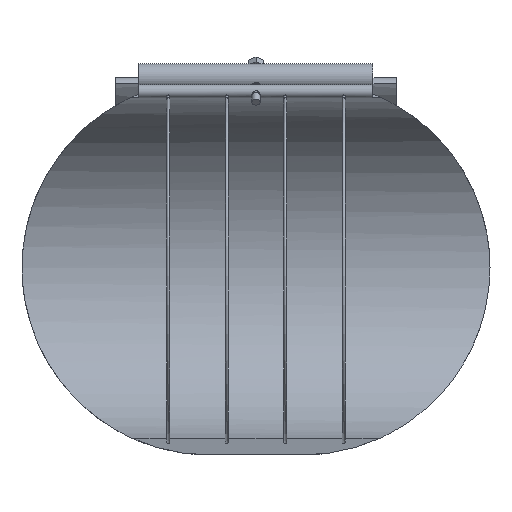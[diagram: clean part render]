
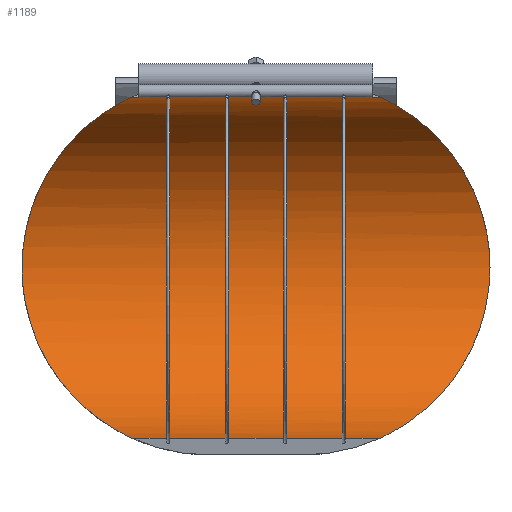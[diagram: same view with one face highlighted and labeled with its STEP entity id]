
A CAD part, front view. The second image highlights one B-rep face of the part: STEP entity #1189.
In plain terms, the highlighted cylindrical face has radius 125 mm (diameter 250 mm), a partial arc.
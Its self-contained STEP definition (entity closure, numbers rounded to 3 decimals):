
#125=FACE_OUTER_BOUND('',#203,.T.);
#203=EDGE_LOOP('',(#1060,#1061,#1062,#1063,#1064,#1065,#1066,#1067,#1068,
#1069));
#254=B_SPLINE_CURVE_WITH_KNOTS('',3,(#2686,#2687,#2688,#2689,#2690,#2691,
#2692,#2693,#2694,#2695,#2696,#2697,#2698,#2699,#2700,#2701,#2702,#2703,
#2704,#2705),.UNSPECIFIED.,.F.,.F.,(4,2,2,2,2,2,2,2,2,4),(45.024,
45.49,46.888,48.286,51.081,53.877,
56.418,58.959,61.501,64.042),
 .UNSPECIFIED.);
#255=B_SPLINE_CURVE_WITH_KNOTS('',3,(#2706,#2707,#2708,#2709,#2710,#2711,
#2712,#2713,#2714,#2715,#2716,#2717,#2718,#2719,#2720,#2721,#2722,#2723,
#2724,#2725),.UNSPECIFIED.,.F.,.F.,(4,2,2,2,2,2,2,2,2,4),(64.042,
66.583,69.124,71.665,74.207,77.002,
79.798,81.196,82.593,83.06),
 .UNSPECIFIED.);
#260=B_SPLINE_CURVE_WITH_KNOTS('',3,(#2837,#2838,#2839,#2840,#2841,#2842,
#2843,#2844,#2845,#2846,#2847,#2848,#2849,#2850,#2851,#2852,#2853,#2854,
#2855,#2856),.UNSPECIFIED.,.F.,.F.,(4,2,2,2,2,2,2,2,2,4),(2.329,
2.796,4.193,5.591,8.387,11.182,
13.724,16.265,18.806,21.347),
 .UNSPECIFIED.);
#261=B_SPLINE_CURVE_WITH_KNOTS('',3,(#2858,#2859,#2860,#2861,#2862,#2863,
#2864,#2865,#2866,#2867,#2868,#2869,#2870,#2871,#2872,#2873,#2874,#2875,
#2876,#2877),.UNSPECIFIED.,.F.,.F.,(4,2,2,2,2,2,2,2,2,4),(21.347,
23.888,26.43,28.971,31.512,34.308,
37.103,38.501,39.899,40.365),
 .UNSPECIFIED.);
#338=LINE('',#1987,#399);
#339=LINE('',#1990,#400);
#340=LINE('',#1993,#401);
#341=LINE('',#1995,#402);
#342=LINE('',#1996,#403);
#386=LINE('',#2919,#447);
#399=VECTOR('',#1402,10.);
#400=VECTOR('',#1405,10.);
#401=VECTOR('',#1408,10.);
#402=VECTOR('',#1411,10.);
#403=VECTOR('',#1412,10.);
#447=VECTOR('',#1648,10.);
#477=VERTEX_POINT('',#1975);
#479=VERTEX_POINT('',#1980);
#481=VERTEX_POINT('',#1984);
#482=VERTEX_POINT('',#1986);
#483=VERTEX_POINT('',#1989);
#484=VERTEX_POINT('',#1992);
#552=VERTEX_POINT('',#2683);
#553=VERTEX_POINT('',#2685);
#558=VERTEX_POINT('',#2836);
#559=VERTEX_POINT('',#2857);
#602=EDGE_CURVE('',#482,#481,#338,.T.);
#604=EDGE_CURVE('',#483,#482,#339,.T.);
#606=EDGE_CURVE('',#484,#483,#340,.T.);
#608=EDGE_CURVE('',#477,#484,#341,.T.);
#609=EDGE_CURVE('',#479,#477,#342,.T.);
#725=EDGE_CURVE('',#552,#553,#254,.T.);
#726=EDGE_CURVE('',#553,#481,#255,.T.);
#731=EDGE_CURVE('',#479,#558,#260,.T.);
#732=EDGE_CURVE('',#558,#559,#261,.T.);
#736=EDGE_CURVE('',#552,#559,#386,.T.);
#1060=ORIENTED_EDGE('',*,*,#731,.F.);
#1061=ORIENTED_EDGE('',*,*,#609,.T.);
#1062=ORIENTED_EDGE('',*,*,#608,.T.);
#1063=ORIENTED_EDGE('',*,*,#606,.T.);
#1064=ORIENTED_EDGE('',*,*,#604,.T.);
#1065=ORIENTED_EDGE('',*,*,#602,.T.);
#1066=ORIENTED_EDGE('',*,*,#726,.F.);
#1067=ORIENTED_EDGE('',*,*,#725,.F.);
#1068=ORIENTED_EDGE('',*,*,#736,.T.);
#1069=ORIENTED_EDGE('',*,*,#732,.F.);
#1130=CYLINDRICAL_SURFACE('',#1337,125.);
#1189=ADVANCED_FACE('',(#125),#1130,.F.);
#1337=AXIS2_PLACEMENT_3D('',#2918,#1646,#1647);
#1402=DIRECTION('',(1.,0.,0.));
#1405=DIRECTION('',(1.,0.,0.));
#1408=DIRECTION('',(1.,0.,0.));
#1411=DIRECTION('',(1.,0.,0.));
#1412=DIRECTION('',(1.,0.,0.));
#1646=DIRECTION('center_axis',(1.,0.,0.));
#1647=DIRECTION('ref_axis',(0.,1.,0.));
#1648=DIRECTION('',(-1.,0.,0.));
#1975=CARTESIAN_POINT('',(-63.375,21.706,-123.101));
#1980=CARTESIAN_POINT('',(-89.723,21.706,-123.101));
#1984=CARTESIAN_POINT('',(89.723,21.706,-123.101));
#1986=CARTESIAN_POINT('',(63.375,21.706,-123.101));
#1987=CARTESIAN_POINT('',(0.,21.706,-123.101));
#1989=CARTESIAN_POINT('',(21.125,21.706,-123.101));
#1990=CARTESIAN_POINT('',(0.,21.706,-123.101));
#1992=CARTESIAN_POINT('',(-21.125,21.706,-123.101));
#1993=CARTESIAN_POINT('',(0.,21.706,-123.101));
#1995=CARTESIAN_POINT('',(0.,21.706,-123.101));
#1996=CARTESIAN_POINT('',(0.,21.706,-123.101));
#2683=CARTESIAN_POINT('',(89.723,21.706,123.101));
#2685=CARTESIAN_POINT('',(169.,125.,0.));
#2686=CARTESIAN_POINT('Ctrl Pts',(89.723,21.706,123.101));
#2687=CARTESIAN_POINT('Ctrl Pts',(90.252,23.068,122.861));
#2688=CARTESIAN_POINT('Ctrl Pts',(90.818,24.418,122.6));
#2689=CARTESIAN_POINT('Ctrl Pts',(93.209,29.767,121.473));
#2690=CARTESIAN_POINT('Ctrl Pts',(95.285,33.673,120.446));
#2691=CARTESIAN_POINT('Ctrl Pts',(99.792,41.335,118.036));
#2692=CARTESIAN_POINT('Ctrl Pts',(102.224,45.09,116.653));
#2693=CARTESIAN_POINT('Ctrl Pts',(109.828,56.154,111.964));
#2694=CARTESIAN_POINT('Ctrl Pts',(115.275,63.232,108.126));
#2695=CARTESIAN_POINT('Ctrl Pts',(125.985,76.54,99.151));
#2696=CARTESIAN_POINT('Ctrl Pts',(131.253,82.765,94.012));
#2697=CARTESIAN_POINT('Ctrl Pts',(140.526,93.5,83.277));
#2698=CARTESIAN_POINT('Ctrl Pts',(144.907,98.458,77.418));
#2699=CARTESIAN_POINT('Ctrl Pts',(152.932,107.434,64.386));
#2700=CARTESIAN_POINT('Ctrl Pts',(156.575,111.451,57.211));
#2701=CARTESIAN_POINT('Ctrl Pts',(162.602,118.058,41.914));
#2702=CARTESIAN_POINT('Ctrl Pts',(164.991,120.654,33.773));
#2703=CARTESIAN_POINT('Ctrl Pts',(168.19,124.126,17.052));
#2704=CARTESIAN_POINT('Ctrl Pts',(169.,125.,8.471));
#2705=CARTESIAN_POINT('Ctrl Pts',(169.,125.,0.));
#2706=CARTESIAN_POINT('Ctrl Pts',(169.,125.,0.));
#2707=CARTESIAN_POINT('Ctrl Pts',(169.,125.,-8.471));
#2708=CARTESIAN_POINT('Ctrl Pts',(168.19,124.126,-17.052));
#2709=CARTESIAN_POINT('Ctrl Pts',(164.991,120.654,-33.773));
#2710=CARTESIAN_POINT('Ctrl Pts',(162.602,118.058,-41.914));
#2711=CARTESIAN_POINT('Ctrl Pts',(156.575,111.451,-57.211));
#2712=CARTESIAN_POINT('Ctrl Pts',(152.932,107.434,-64.386));
#2713=CARTESIAN_POINT('Ctrl Pts',(144.907,98.458,-77.418));
#2714=CARTESIAN_POINT('Ctrl Pts',(140.526,93.5,-83.277));
#2715=CARTESIAN_POINT('Ctrl Pts',(131.253,82.765,-94.012));
#2716=CARTESIAN_POINT('Ctrl Pts',(125.985,76.54,-99.151));
#2717=CARTESIAN_POINT('Ctrl Pts',(115.275,63.232,-108.126));
#2718=CARTESIAN_POINT('Ctrl Pts',(109.828,56.154,-111.964));
#2719=CARTESIAN_POINT('Ctrl Pts',(102.224,45.09,-116.653));
#2720=CARTESIAN_POINT('Ctrl Pts',(99.792,41.335,-118.036));
#2721=CARTESIAN_POINT('Ctrl Pts',(95.285,33.673,-120.446));
#2722=CARTESIAN_POINT('Ctrl Pts',(93.209,29.767,-121.473));
#2723=CARTESIAN_POINT('Ctrl Pts',(90.818,24.418,-122.6));
#2724=CARTESIAN_POINT('Ctrl Pts',(90.252,23.068,-122.861));
#2725=CARTESIAN_POINT('Ctrl Pts',(89.723,21.706,-123.101));
#2836=CARTESIAN_POINT('',(-169.,125.,0.));
#2837=CARTESIAN_POINT('Ctrl Pts',(-89.723,21.706,-123.101));
#2838=CARTESIAN_POINT('Ctrl Pts',(-90.252,23.068,-122.861));
#2839=CARTESIAN_POINT('Ctrl Pts',(-90.818,24.418,-122.6));
#2840=CARTESIAN_POINT('Ctrl Pts',(-93.209,29.767,-121.473));
#2841=CARTESIAN_POINT('Ctrl Pts',(-95.285,33.673,-120.446));
#2842=CARTESIAN_POINT('Ctrl Pts',(-99.792,41.335,-118.036));
#2843=CARTESIAN_POINT('Ctrl Pts',(-102.224,45.09,-116.653));
#2844=CARTESIAN_POINT('Ctrl Pts',(-109.828,56.154,-111.964));
#2845=CARTESIAN_POINT('Ctrl Pts',(-115.275,63.232,-108.126));
#2846=CARTESIAN_POINT('Ctrl Pts',(-125.985,76.54,-99.151));
#2847=CARTESIAN_POINT('Ctrl Pts',(-131.253,82.765,-94.012));
#2848=CARTESIAN_POINT('Ctrl Pts',(-140.526,93.5,-83.277));
#2849=CARTESIAN_POINT('Ctrl Pts',(-144.907,98.458,-77.418));
#2850=CARTESIAN_POINT('Ctrl Pts',(-152.932,107.434,-64.386));
#2851=CARTESIAN_POINT('Ctrl Pts',(-156.575,111.451,-57.211));
#2852=CARTESIAN_POINT('Ctrl Pts',(-162.602,118.058,-41.914));
#2853=CARTESIAN_POINT('Ctrl Pts',(-164.991,120.654,-33.773));
#2854=CARTESIAN_POINT('Ctrl Pts',(-168.19,124.126,-17.052));
#2855=CARTESIAN_POINT('Ctrl Pts',(-169.,125.,-8.471));
#2856=CARTESIAN_POINT('Ctrl Pts',(-169.,125.,0.));
#2857=CARTESIAN_POINT('',(-89.723,21.706,123.101));
#2858=CARTESIAN_POINT('Ctrl Pts',(-169.,125.,0.));
#2859=CARTESIAN_POINT('Ctrl Pts',(-169.,125.,8.471));
#2860=CARTESIAN_POINT('Ctrl Pts',(-168.19,124.126,17.052));
#2861=CARTESIAN_POINT('Ctrl Pts',(-164.991,120.654,33.773));
#2862=CARTESIAN_POINT('Ctrl Pts',(-162.602,118.058,41.914));
#2863=CARTESIAN_POINT('Ctrl Pts',(-156.575,111.451,57.211));
#2864=CARTESIAN_POINT('Ctrl Pts',(-152.932,107.434,64.386));
#2865=CARTESIAN_POINT('Ctrl Pts',(-144.907,98.458,77.418));
#2866=CARTESIAN_POINT('Ctrl Pts',(-140.526,93.5,83.277));
#2867=CARTESIAN_POINT('Ctrl Pts',(-131.253,82.765,94.012));
#2868=CARTESIAN_POINT('Ctrl Pts',(-125.985,76.54,99.151));
#2869=CARTESIAN_POINT('Ctrl Pts',(-115.275,63.232,108.126));
#2870=CARTESIAN_POINT('Ctrl Pts',(-109.828,56.154,111.964));
#2871=CARTESIAN_POINT('Ctrl Pts',(-102.224,45.09,116.653));
#2872=CARTESIAN_POINT('Ctrl Pts',(-99.792,41.335,118.036));
#2873=CARTESIAN_POINT('Ctrl Pts',(-95.285,33.673,120.446));
#2874=CARTESIAN_POINT('Ctrl Pts',(-93.209,29.767,121.473));
#2875=CARTESIAN_POINT('Ctrl Pts',(-90.818,24.418,122.6));
#2876=CARTESIAN_POINT('Ctrl Pts',(-90.252,23.068,122.861));
#2877=CARTESIAN_POINT('Ctrl Pts',(-89.723,21.706,123.101));
#2918=CARTESIAN_POINT('Origin',(0.,0.,0.));
#2919=CARTESIAN_POINT('',(0.,21.706,123.101));
